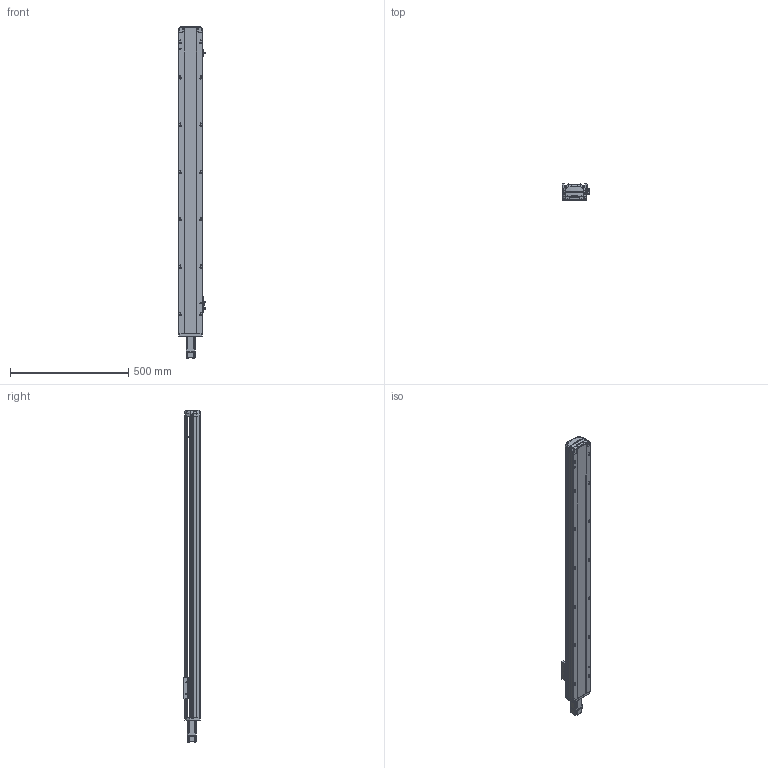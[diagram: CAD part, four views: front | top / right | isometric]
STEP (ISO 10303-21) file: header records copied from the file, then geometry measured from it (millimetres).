
FILE_DESCRIPTION (( 'STEP AP214' ), '1' );
FILE_NAME ('RTH10-XX-1050-E-M10-C4.STEP', '2025-10-25T05:28:47', ( 'Microsoft' ), ( 'Microsoft' ), 'SwSTEP 2.0', 'SolidWorks 2018', '' );
FILE_SCHEMA (( 'AUTOMOTIVE_DESIGN' ));
Length unit declared in the file: millimetre
Products named in the file (9): N_P10^RTH10-XX-XX-E-M10-C4; N_RTH12-GY-004-賑釱^RTH10-XX-XX-E-M10-C4; RTH10-XX-1050-E-M10-C4; N_RTH13-L-012覜茼え俋离^RTH10-XX-XX-E-M10-C4; N_OMRON EE-SX672 传感器^RTH10-XX-XX-E-M10-C4; N_RTH12-E-007P-奻裔^RTH10-XX-XX-E-M10-C4; N_RTH12-E-011P-臏倰第菁釱^RTH10-XX-XX-E-M10-C4; N_RTH12-GY-001P^RTH10-XX-XX-E-M10-C4; N_RTH12-E-008-M10萇儂啣^RTH10-XX-XX-E-M10-C4
Assembly tree (10 placements, depth 2):
  RTH10-XX-1050-E-M10-C4
    N_RTH12-E-011P-臏倰第菁釱^RTH10-XX-XX-E-M10-C4
    N_RTH13-L-012覜茼え俋离^RTH10-XX-XX-E-M10-C4
    N_OMRON EE-SX672 传感器^RTH10-XX-XX-E-M10-C4  x3
    N_P10^RTH10-XX-XX-E-M10-C4
    N_RTH12-E-007P-奻裔^RTH10-XX-XX-E-M10-C4
    N_RTH12-E-008-M10萇儂啣^RTH10-XX-XX-E-M10-C4
    N_RTH12-GY-001P^RTH10-XX-XX-E-M10-C4
    N_RTH12-GY-004-賑釱^RTH10-XX-XX-E-M10-C4
Bounding box: 116.5 x 70 x 1403.17 mm (x, y, z)
Volume: 5107563.3 mm3; surface area: 792390.8 mm2
Topology: 9 solids, 11 shells, 1992 faces, 5563 edges, 3650 vertices
Faces by surface type: plane 980, cylinder 505, bspline 472, cone 33, torus 2
Entity records: 60283 total; most frequent: CARTESIAN_POINT 23694, ORIENTED_EDGE 8206, DIRECTION 6367, EDGE_CURVE 4109, VERTEX_POINT 2694, LINE 2153, VECTOR 2153, AXIS2_PLACEMENT_3D 2107
